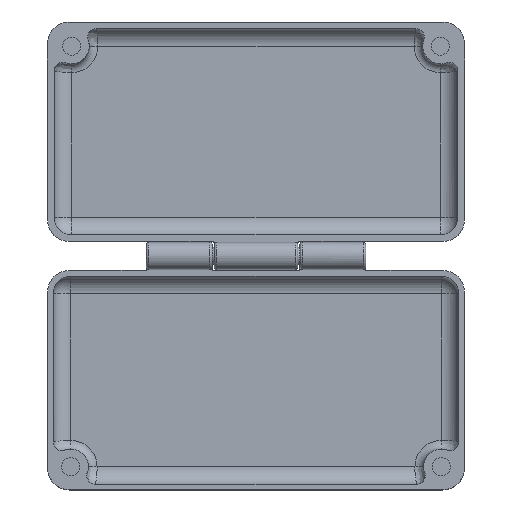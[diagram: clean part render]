
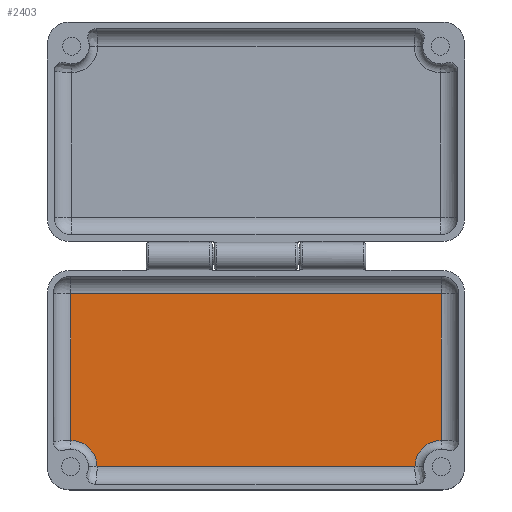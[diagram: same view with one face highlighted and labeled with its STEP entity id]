
A CAD part, top view. The second image highlights one B-rep face of the part: STEP entity #2403.
In plain terms, the highlighted planar face has unit normal (0, 0, 1).
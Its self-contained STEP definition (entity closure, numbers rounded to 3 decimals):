
#24 = CARTESIAN_POINT ( 'NONE',  ( 0., 10.55, -10.8 ) ) ;
#104 = DIRECTION ( 'NONE',  ( 1., 0., 0. ) ) ;
#123 = DIRECTION ( 'NONE',  ( 0., 1., 0. ) ) ;
#216 = DIRECTION ( 'NONE',  ( 0., 0., -1. ) ) ;
#250 = CARTESIAN_POINT ( 'NONE',  ( -42.2, -28.85, -10.8 ) ) ;
#444 = AXIS2_PLACEMENT_3D ( 'NONE', #2823, #1977, #2017 ) ;
#581 = CIRCLE ( 'NONE', #1399, 6. ) ;
#687 = VECTOR ( 'NONE', #123, 1000. ) ;
#688 = ORIENTED_EDGE ( 'NONE', *, *, #5086, .T. ) ;
#892 = CARTESIAN_POINT ( 'NONE',  ( 42.2, 10.55, -10.8 ) ) ;
#1025 = VECTOR ( 'NONE', #104, 1000. ) ;
#1143 = PLANE ( 'NONE',  #444 ) ;
#1160 = LINE ( 'NONE', #4793, #1025 ) ;
#1173 = CARTESIAN_POINT ( 'NONE',  ( -42.2, -22.85, -10.8 ) ) ;
#1399 = AXIS2_PLACEMENT_3D ( 'NONE', #3574, #3119, #2260 ) ;
#1432 = DIRECTION ( 'NONE',  ( 0., 1., 0. ) ) ;
#1478 = LINE ( 'NONE', #2139, #687 ) ;
#1658 = EDGE_CURVE ( 'NONE', #3208, #1797, #4490, .T. ) ;
#1709 = AXIS2_PLACEMENT_3D ( 'NONE', #3990, #216, #1432 ) ;
#1797 = VERTEX_POINT ( 'NONE', #1173 ) ;
#1803 = DIRECTION ( 'NONE',  ( 0., -1., 0. ) ) ;
#1811 = ORIENTED_EDGE ( 'NONE', *, *, #4950, .T. ) ;
#1859 = ORIENTED_EDGE ( 'NONE', *, *, #4337, .T. ) ;
#1977 = DIRECTION ( 'NONE',  ( 0., 0., -1. ) ) ;
#2017 = DIRECTION ( 'NONE',  ( 0., 1., 0. ) ) ;
#2133 = ORIENTED_EDGE ( 'NONE', *, *, #2631, .T. ) ;
#2139 = CARTESIAN_POINT ( 'NONE',  ( 42.2, -9.15, -10.8 ) ) ;
#2237 = DIRECTION ( 'NONE',  ( -1., 0., 0. ) ) ;
#2260 = DIRECTION ( 'NONE',  ( 0., 1., 0. ) ) ;
#2403 = ADVANCED_FACE ( 'NONE', ( #4763 ), #1143, .F. ) ;
#2631 = EDGE_CURVE ( 'NONE', #4020, #4860, #1478, .T. ) ;
#2823 = CARTESIAN_POINT ( 'NONE',  ( 0., -9.15, -10.8 ) ) ;
#2889 = CARTESIAN_POINT ( 'NONE',  ( 42.2, -22.85, -10.8 ) ) ;
#2944 = ORIENTED_EDGE ( 'NONE', *, *, #3947, .T. ) ;
#3119 = DIRECTION ( 'NONE',  ( 0., 0., -1. ) ) ;
#3135 = CARTESIAN_POINT ( 'NONE',  ( -36.2, -28.85, -10.8 ) ) ;
#3208 = VERTEX_POINT ( 'NONE', #4267 ) ;
#3430 = VERTEX_POINT ( 'NONE', #3135 ) ;
#3574 = CARTESIAN_POINT ( 'NONE',  ( -42.2, -28.85, -10.8 ) ) ;
#3759 = CIRCLE ( 'NONE', #1709, 6. ) ;
#3827 = LINE ( 'NONE', #24, #4825 ) ;
#3848 = ORIENTED_EDGE ( 'NONE', *, *, #1658, .T. ) ;
#3947 = EDGE_CURVE ( 'NONE', #1797, #3430, #581, .T. ) ;
#3990 = CARTESIAN_POINT ( 'NONE',  ( 42.2, -28.85, -10.8 ) ) ;
#4020 = VERTEX_POINT ( 'NONE', #2889 ) ;
#4267 = CARTESIAN_POINT ( 'NONE',  ( -42.2, 10.55, -10.8 ) ) ;
#4325 = VERTEX_POINT ( 'NONE', #4765 ) ;
#4337 = EDGE_CURVE ( 'NONE', #4860, #3208, #3827, .T. ) ;
#4490 = LINE ( 'NONE', #250, #5486 ) ;
#4676 = EDGE_LOOP ( 'NONE', ( #1811, #688, #2133, #1859, #3848, #2944 ) ) ;
#4763 = FACE_OUTER_BOUND ( 'NONE', #4676, .T. ) ;
#4765 = CARTESIAN_POINT ( 'NONE',  ( 36.2, -28.85, -10.8 ) ) ;
#4793 = CARTESIAN_POINT ( 'NONE',  ( 42.2, -28.85, -10.8 ) ) ;
#4825 = VECTOR ( 'NONE', #2237, 1000. ) ;
#4860 = VERTEX_POINT ( 'NONE', #892 ) ;
#4950 = EDGE_CURVE ( 'NONE', #3430, #4325, #1160, .T. ) ;
#5086 = EDGE_CURVE ( 'NONE', #4325, #4020, #3759, .T. ) ;
#5486 = VECTOR ( 'NONE', #1803, 1000. ) ;
